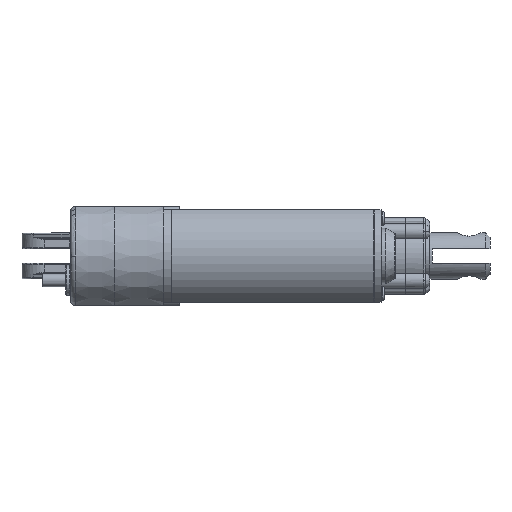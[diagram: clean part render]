
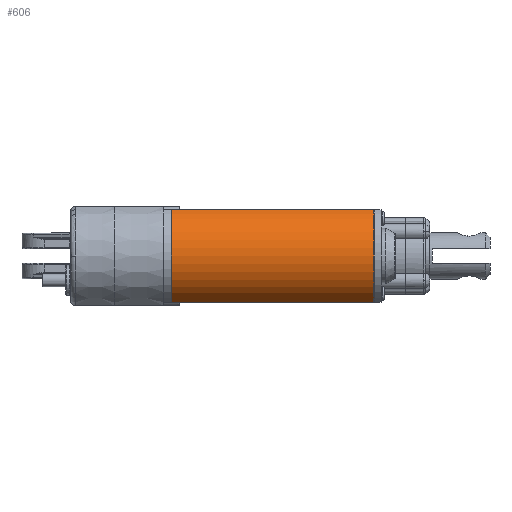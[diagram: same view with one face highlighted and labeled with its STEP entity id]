
A CAD part, front view. The second image highlights one B-rep face of the part: STEP entity #606.
In plain terms, the highlighted cylindrical face has radius 22.5 mm (diameter 45 mm), a partial arc.
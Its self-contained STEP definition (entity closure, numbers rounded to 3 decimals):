
#606=ADVANCED_FACE('',(#1753),#1754,.T.);
#1753=FACE_OUTER_BOUND('',#4697,.T.);
#1754=CYLINDRICAL_SURFACE('',#4698,22.5);
#4697=EDGE_LOOP('',(#9618,#9619,#9620,#9621,#9622,#9623));
#4698=AXIS2_PLACEMENT_3D('',#9624,#9625,#9626);
#9618=ORIENTED_EDGE('',*,*,#11528,.T.);
#9619=ORIENTED_EDGE('',*,*,#10252,.T.);
#9620=ORIENTED_EDGE('',*,*,#11529,.T.);
#9621=ORIENTED_EDGE('',*,*,#11530,.T.);
#9622=ORIENTED_EDGE('',*,*,#11498,.T.);
#9623=ORIENTED_EDGE('',*,*,#10258,.T.);
#9624=CARTESIAN_POINT('',(110.0,-41.83,0.));
#9625=DIRECTION('',(-1.0,0.,0.0));
#9626=DIRECTION('',(0.0,0.0,-1.0));
#10252=EDGE_CURVE('',#11891,#11888,#11892,.T.);
#10258=EDGE_CURVE('',#11897,#11901,#11903,.T.);
#11498=EDGE_CURVE('',#13953,#11897,#13956,.T.);
#11528=EDGE_CURVE('',#11901,#11891,#13997,.T.);
#11529=EDGE_CURVE('',#11888,#13998,#13999,.T.);
#11530=EDGE_CURVE('',#13998,#13953,#14000,.T.);
#11888=VERTEX_POINT('',#14516);
#11891=VERTEX_POINT('',#14519);
#11892=CIRCLE('',#14520,22.5);
#11897=VERTEX_POINT('',#14543);
#11901=VERTEX_POINT('',#14547);
#11903=CIRCLE('',#14567,22.5);
#13953=VERTEX_POINT('',#22854);
#13956=CIRCLE('',#22876,22.5);
#13997=LINE('',#23122,#23123);
#13998=VERTEX_POINT('',#23124);
#13999=CIRCLE('',#23125,22.5);
#14000=LINE('',#23126,#23127);
#14516=CARTESIAN_POINT('',(24.6,-64.33,0.));
#14519=CARTESIAN_POINT('',(24.6,-52.138,20.0));
#14520=AXIS2_PLACEMENT_3D('',#24447,#24448,#24449);
#14543=CARTESIAN_POINT('',(111.9,-64.33,0.));
#14547=CARTESIAN_POINT('',(111.9,-52.138,20.0));
#14567=AXIS2_PLACEMENT_3D('',#24459,#24460,#24461);
#22854=CARTESIAN_POINT('',(111.9,-52.138,-20.0));
#22876=AXIS2_PLACEMENT_3D('',#26035,#26036,#26037);
#23122=CARTESIAN_POINT('',(110.0,-52.138,20.0));
#23123=VECTOR('',#26085,1000.0);
#23124=CARTESIAN_POINT('',(24.6,-52.138,-20.0));
#23125=AXIS2_PLACEMENT_3D('',#26086,#26087,#26088);
#23126=CARTESIAN_POINT('',(110.0,-52.138,-20.0));
#23127=VECTOR('',#26089,1000.0);
#24447=CARTESIAN_POINT('',(24.6,-41.83,0.));
#24448=DIRECTION('',(1.0,0.,0.0));
#24449=DIRECTION('',(0.0,0.0,-1.0));
#24459=CARTESIAN_POINT('',(111.9,-41.83,0.));
#24460=DIRECTION('',(-1.0,0.,0.0));
#24461=DIRECTION('',(0.0,0.0,-1.0));
#26035=CARTESIAN_POINT('',(111.9,-41.83,0.));
#26036=DIRECTION('',(-1.0,0.,0.0));
#26037=DIRECTION('',(0.0,0.0,-1.0));
#26085=DIRECTION('',(-1.0,0.,0.0));
#26086=CARTESIAN_POINT('',(24.6,-41.83,0.));
#26087=DIRECTION('',(1.0,0.,0.0));
#26088=DIRECTION('',(0.0,0.0,-1.0));
#26089=DIRECTION('',(1.0,0.,0.0));
